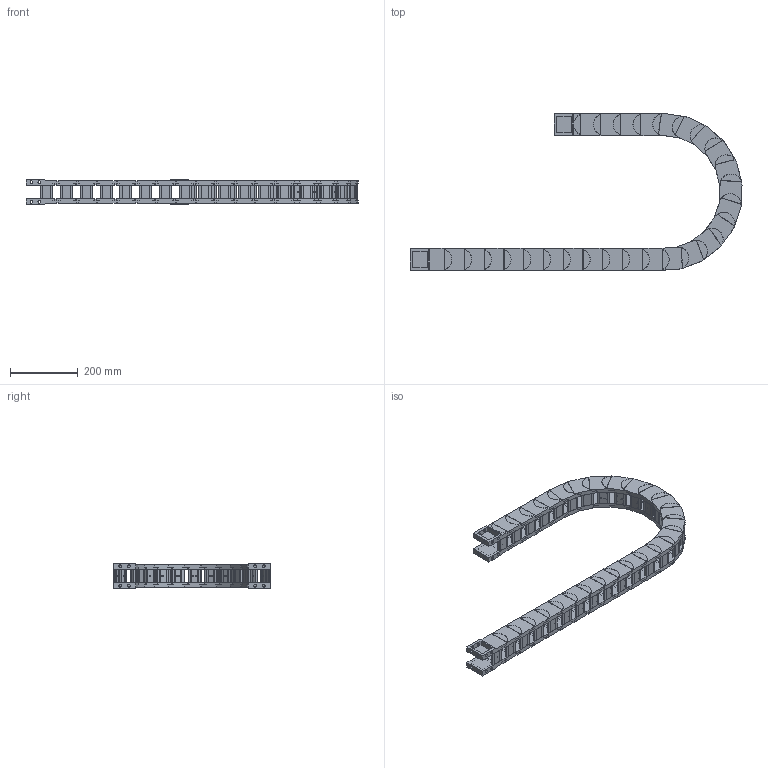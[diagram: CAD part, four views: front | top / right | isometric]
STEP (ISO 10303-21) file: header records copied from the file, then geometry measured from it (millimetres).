
FILE_DESCRIPTION((''),'2;1');
FILE_NAME('HD45-R200-ZPT_ASM','2022-06-20T19:16:21',('admin'),(''),'CREO PARAMETRIC BY PTC INC, 2021164','CREO PARAMETRIC BY PTC INC, 2021164','');
FILE_SCHEMA(('CONFIG_CONTROL_DESIGN','GEOMETRIC_VALIDATION_PROPERTIES_MIM'));
Length unit declared in the file: millimetre
Products named in the file (6): HD45-585; 45-500001; HD45_ASM; H45-T1-G; H45-T2-G; HD45-R200-ZPT_ASM
Assembly tree (32 placements, depth 3):
  HD45-R200-ZPT_ASM
    HD45_ASM  x26
      HD45-585
      45-500001
    H45-T1-G
    H45-T2-G
    45-500001  x2
Bounding box: 982.75 x 464.29 x 73 mm (x, y, z)
Volume: 3735580.6 mm3; surface area: 1341001 mm2
Topology: 112 solids, 112 shells, 2170 faces, 5810 edges, 3980 vertices
Faces by surface type: plane 1426, cylinder 744
Entity records: 8702 total; most frequent: CARTESIAN_POINT 1404, DIRECTION 1394, ORIENTED_EDGE 1276, EDGE_CURVE 638, AXIS2_PLACEMENT_3D 486, VERTEX_POINT 432, VECTOR 422, LINE 422
